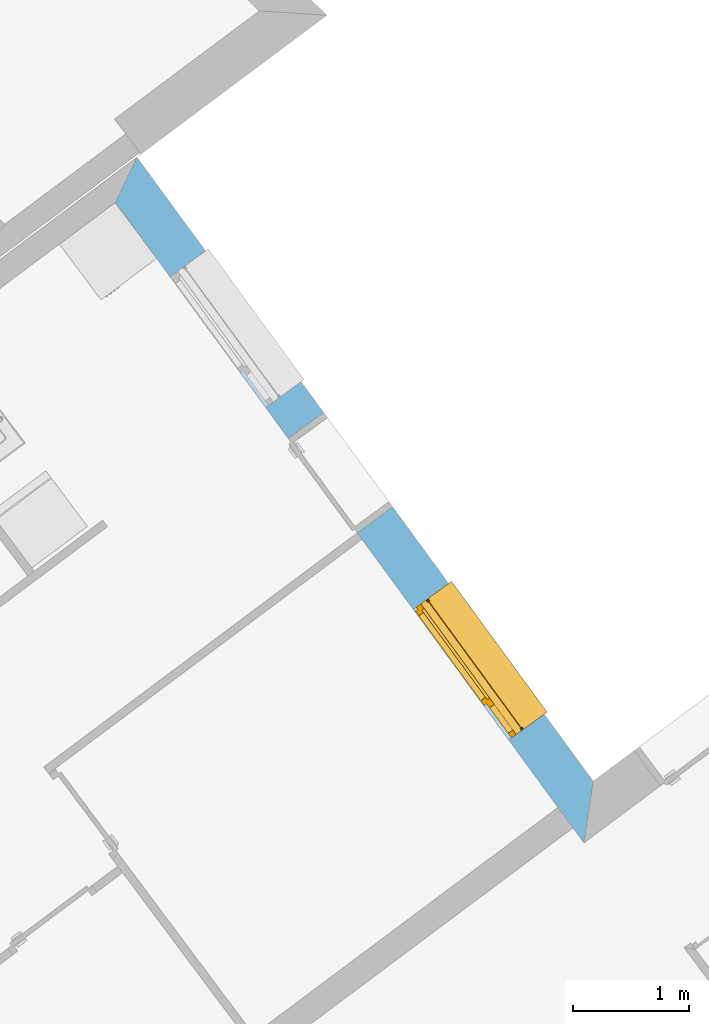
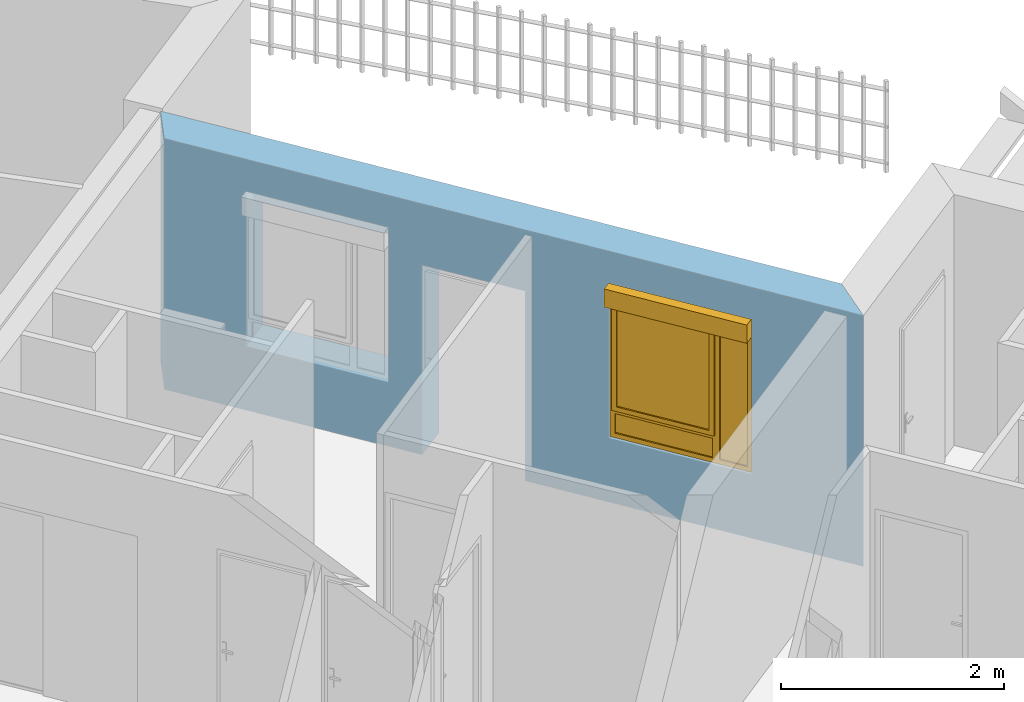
# One storey, part 12 of 195: 1 window, 3 openings, plus 1 element that does not belong to this part.
"""IFC2X3 building model written with IfcOpenShell, lengths in metres."""

from ifc_helpers import new_model, entity, si_unit, converted_unit, derived_unit, money_unit, direction, frame, origin_with_axes, origin_2d_with_axis, place, context, subcontext, project, spatial, polyline, rectangle, outline, extrude, open_shell, faceted_brep, surface_model, source, transform, mapped, material, layer, layer_set, layer_usage, type_object, element, fill, save


model = new_model("IFC2X3")

# Units and contexts
model_context = context("Model", 3, precision=1e-05, world=origin_with_axes(), true_north=direction((0.0, 1.0)))
body_context = subcontext(model_context, "Body", "Model", "MODEL_VIEW")
ifc_project = project(units=[si_unit("LENGTHUNIT", "METRE"), si_unit("AREAUNIT", "SQUARE_METRE"), si_unit("VOLUMEUNIT", "CUBIC_METRE"), converted_unit("PLANEANGLEUNIT", "DEGREE", entity("IfcPlaneAngleMeasure", 0.0174532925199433), si_unit("PLANEANGLEUNIT", "RADIAN"), dimensions=[0, 0, 0, 0, 0, 0, 0]), money_unit("CHF"), converted_unit("TIMEUNIT", "Year", entity("IfcTimeMeasure", 31557600.0), si_unit("TIMEUNIT", "SECOND"), dimensions=[0, 0, 1, 0, 0, 0, 0]), si_unit("MASSUNIT", "GRAM", prefix="KILO"), si_unit("THERMODYNAMICTEMPERATUREUNIT", "DEGREE_CELSIUS"), si_unit("LUMINOUSINTENSITYUNIT", "LUMEN"), si_unit("ENERGYUNIT", "JOULE", prefix="MEGA"), derived_unit("THERMALCONDUCTANCEUNIT", [(si_unit("POWERUNIT", "WATT"), 1), (si_unit("LENGTHUNIT", "METRE"), -1), (si_unit("THERMODYNAMICTEMPERATUREUNIT", "KELVIN"), -1)]), derived_unit("SPECIFICHEATCAPACITYUNIT", [(si_unit("ENERGYUNIT", "JOULE"), 1), (si_unit("MASSUNIT", "GRAM", prefix="KILO"), -1), (si_unit("THERMODYNAMICTEMPERATUREUNIT", "KELVIN"), -1)]), derived_unit("MASSDENSITYUNIT", [(si_unit("MASSUNIT", "GRAM", prefix="KILO"), 1), (si_unit("VOLUMEUNIT", "CUBIC_METRE"), -1)])], contexts=[model_context])

# Site, building, storey
site_placement = place(None, origin_with_axes())
site = spatial("IfcSite", under=ifc_project, at=site_placement, Name="Site", CompositionType="ELEMENT")
building_placement = place(site_placement, origin_with_axes())
building = spatial("IfcBuilding", under=site, at=building_placement, Name="Bâtiment", CompositionType="ELEMENT")
storey_placement = place(building_placement, origin_with_axes())
storey = spatial("IfcBuildingStorey", under=building, at=storey_placement, Name="rdc", CompositionType="ELEMENT", Elevation=0.0)

# Wall, openings, window
ifc_material_1 = material(Name="Parpaing 312445824")
ifc_layer_1 = layer(ifc_material_1, 0.22, ventilated="UNKNOWN")
ifc_material_2 = material(Name="Isolant styromousse 301821074")
ifc_layer_2 = layer(ifc_material_2, 0.16, ventilated="UNKNOWN")
ifc_layer_set = layer_set([ifc_layer_1, ifc_layer_2], Name="isol int 22+16 0836643197")
ifc_layer_usage = layer_usage(ifc_layer_set, "AXIS2", "POSITIVE", 0.0)
wall_type = type_object("IfcWallType", Name="isol int 22+16 0836643197 380", PredefinedType="NOTDEFINED")
wall_placement = place(storey_placement, frame((9541.451386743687, -1075.117736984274, 57.7), z_axis=(0.0, 0.0, 1.0), x_axis=(-0.5902012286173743, 0.8072561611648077, 0.0)))
wall = element("IfcWallStandardCase", 1, at=wall_placement, inside=storey, type_object=wall_type, material=ifc_layer_usage, Name="Mur-113", context=body_context, shape_type="SweptSolid", body=[
    extrude(outline(polyline([(0.0, 0.0), (6.680351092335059, 0.0), (6.476444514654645, 0.3800000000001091), (-0.3839160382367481, 0.3800000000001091), (0.0, 0.0)])), origin_with_axes(), (0.0, 0.0, 1.0), 2.75),
])
opening_1_placement = place(wall_placement, frame((4.976733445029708, 0.0, 0.7000000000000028), z_axis=(0.0, 0.0, 1.0), x_axis=(1.0, 0.0, 0.0)))
element("IfcOpeningElement", 2, at=opening_1_placement, cuts=wall, Name="Fen-045", context=body_context, shape_type="Brep", body=[
    faceted_brep([(0.7000000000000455, 0.2199999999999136, 1.5), (-0.6999999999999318, 0.2200000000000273, 1.5), (-0.7000000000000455, -3.183810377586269, 1.5), (0.6999999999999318, -3.183810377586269, 1.5), (0.7000000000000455, 0.2199999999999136, 1.700000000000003), (-0.6999999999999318, 0.2200000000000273, 1.700000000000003), (-0.6999999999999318, 0.3000000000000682, 1.5), (-0.6999999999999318, 0.3000000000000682, 0.0), (-0.7000000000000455, -3.183810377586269, 0.0), (0.6999999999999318, -3.183810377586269, 0.0), (0.7000000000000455, 0.3000000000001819, 1.5), (0.7000000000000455, 0.3000000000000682, 0.0), (0.6999999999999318, 0.4800000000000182, 1.5), (0.6999999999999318, 0.4800000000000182, 1.700000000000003), (-0.7000000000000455, 0.4799999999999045, 1.700000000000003), (-0.7000000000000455, 0.4799999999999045, 1.5), (-0.7000000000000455, 3.563810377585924, 1.5), (-0.7000000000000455, 3.563810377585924, 0.0), (0.7000000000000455, 3.563810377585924, 0.0), (0.7000000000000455, 3.563810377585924, 1.5)], [[[0, 1, 2, 3]], [[1, 0, 4, 5]], [[1, 6, 7, 8, 2]], [[2, 8, 9, 3]], [[10, 0, 3, 9, 11]], [[0, 10, 12, 13, 4]], [[14, 5, 4, 13]], [[6, 1, 5, 14, 15]], [[6, 15, 16, 17, 7]], [[11, 9, 8, 7, 17, 18]], [[12, 10, 11, 18, 19]], [[12, 15, 14, 13]], [[15, 12, 19, 16]], [[19, 18, 17, 16]]]),
])
opening_2_placement = place(wall_placement, frame((1.416247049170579, 0.0, 0.7000000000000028), z_axis=(0.0, 0.0, 1.0), x_axis=(1.0, 0.0, 0.0)))
opening_2 = element("IfcOpeningElement", 3, at=opening_2_placement, cuts=wall, Name="Fen-045", context=body_context, shape_type="Brep", body=[
    faceted_brep([(0.6999999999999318, 0.220000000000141, 1.5), (-0.7000000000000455, 0.220000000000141, 1.5), (-0.7000000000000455, -3.183810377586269, 1.5), (0.6999999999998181, -3.183810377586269, 1.5), (0.6999999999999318, 0.220000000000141, 1.700000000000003), (-0.7000000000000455, 0.220000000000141, 1.700000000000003), (-0.7000000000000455, 0.3000000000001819, 1.5), (-0.7000000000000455, 0.3000000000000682, 0.0), (-0.7000000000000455, -3.183810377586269, 0.0), (0.6999999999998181, -3.183810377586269, 0.0), (0.6999999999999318, 0.3000000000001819, 1.5), (0.7000000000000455, 0.3000000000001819, 0.0), (0.6999999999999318, 0.4800000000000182, 1.5), (0.6999999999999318, 0.4800000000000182, 1.700000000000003), (-0.7000000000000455, 0.4800000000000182, 1.700000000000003), (-0.7000000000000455, 0.4800000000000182, 1.5), (-0.7000000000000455, 3.563810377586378, 1.5), (-0.7000000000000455, 3.563810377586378, 0.0), (0.7000000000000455, 3.563810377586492, 0.0), (0.7000000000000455, 3.563810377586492, 1.5)], [[[0, 1, 2, 3]], [[1, 0, 4, 5]], [[1, 6, 7, 8, 2]], [[2, 8, 9, 3]], [[10, 0, 3, 9, 11]], [[0, 10, 12, 13, 4]], [[14, 5, 4, 13]], [[6, 1, 5, 14, 15]], [[6, 15, 16, 17, 7]], [[11, 9, 8, 7, 17, 18]], [[12, 10, 11, 18, 19]], [[12, 15, 14, 13]], [[15, 12, 19, 16]], [[19, 18, 17, 16]]]),
])
opening_3_placement = place(wall_placement, frame((3.44115834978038, 0.0, 0.0), z_axis=(0.0, 0.0, 1.0), x_axis=(1.0, 0.0, 0.0)))
element("IfcOpeningElement", 4, at=opening_3_placement, cuts=wall, Name="Por-303", context=body_context, shape_type="SweptSolid", body=[
    extrude(rectangle(XDim=1.01000001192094, YDim=2.079999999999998, at=origin_2d_with_axis()), frame((-5.960600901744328e-09, -0.3799999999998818, 1.039999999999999), z_axis=(0.0, -1.0, 0.0), x_axis=(-1.0, 0.0, 0.0)), (0.0, 0.0, -1.0), 0.76),
])
window_style = type_object("IfcWindowStyle", Name="Fenêtre variable 27", ConstructionType="NOTDEFINED", OperationType="TRIPLE_PANEL_LEFT", ParameterTakesPrecedence=False, Sizeable=False)
shared_shape = source(origin_with_axes(), body_context, "Body", "SurfaceModel", [
    surface_model("IfcShellBasedSurfaceModel", [(0.7, -0.05100000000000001, 0.05), (-0.7, -0.05100000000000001, 0.05000000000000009), (-0.7, -0.05100000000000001, 0.04000000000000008), (0.7, -0.05100000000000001, 0.04), (-0.7, -0.3799999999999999, 0.02900000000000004), (0.7, -0.3799999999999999, 0.02899999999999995), (-0.7, -0.3799999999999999, 0.00900000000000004), (0.7, -0.3799999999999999, 0.008999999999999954), (-0.7, -0.3699999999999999, 0.01900000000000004), (0.7, -0.3699999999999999, 0.01899999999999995)], [open_shell([[[0, 1, 2, 3]], [[3, 2, 4, 5]], [[5, 4, 6, 7]], [[7, 6, 8, 9]]])]),
    faceted_brep([(0.7, -0.13, 1.7), (0.7, 0.13, 1.7), (0.697, 0.13, 1.7), (0.697, -0.13, 1.7), (0.7, -0.13, 1.5), (0.7, 0.13, 1.5), (0.697, 0.13, 1.5), (0.697, -0.13, 1.5)], [[[0, 1, 2, 3]], [[0, 4, 5, 1]], [[1, 5, 6, 2]], [[3, 2, 6, 7]], [[4, 0, 3, 7]], [[5, 4, 7, 6]]]),
    faceted_brep([(-0.6970000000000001, -0.1299999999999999, 1.7), (-0.6970000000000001, 0.1300000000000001, 1.7), (-0.7000000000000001, 0.1300000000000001, 1.7), (-0.7000000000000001, -0.1299999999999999, 1.7), (-0.6970000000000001, -0.1299999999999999, 1.5), (-0.6970000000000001, 0.1300000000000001, 1.5), (-0.7000000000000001, 0.1300000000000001, 1.5), (-0.7000000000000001, -0.1299999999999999, 1.5)], [[[0, 1, 2, 3]], [[0, 4, 5, 1]], [[1, 5, 6, 2]], [[3, 2, 6, 7]], [[4, 0, 3, 7]], [[5, 4, 7, 6]]]),
    faceted_brep([(0.697, -0.13, 1.5), (0.697, -0.13, 1.7), (-0.697, -0.1299999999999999, 1.7), (-0.697, -0.1299999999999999, 1.5), (0.697, -0.127, 1.5), (0.697, -0.127, 1.697), (0.697, 0.127, 1.697), (0.697, 0.127, 1.503), (0.697, -0.108, 1.503), (0.697, -0.108, 1.5), (0.697, 0.13, 1.5), (0.697, 0.13, 1.7), (-0.697, 0.1300000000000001, 1.7), (-0.697, 0.1300000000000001, 1.5), (-0.697, -0.1079999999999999, 1.5), (-0.697, -0.1079999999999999, 1.503), (-0.697, 0.1270000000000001, 1.503), (-0.697, 0.1270000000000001, 1.697), (-0.697, -0.1269999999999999, 1.697), (-0.697, -0.1269999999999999, 1.5)], [[[0, 1, 2, 3]], [[0, 4, 5, 6, 7, 8, 9, 10, 11, 1]], [[1, 11, 12, 2]], [[3, 2, 12, 13, 14, 15, 16, 17, 18, 19]], [[4, 0, 3, 19]], [[5, 4, 19, 18]], [[6, 5, 18, 17]], [[7, 6, 17, 16]], [[8, 7, 16, 15]], [[9, 8, 15, 14]], [[10, 9, 14, 13]], [[11, 10, 13, 12]]]),
    faceted_brep([(0.694, -0.08075423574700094, 1.585760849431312), (0.694, -0.07705479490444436, 1.571954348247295), (0.694, -0.07101408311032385, 1.559), (0.694, -0.06281564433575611, 1.547291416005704), (0.694, -0.05270858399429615, 1.537184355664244), (0.694, -0.04099999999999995, 1.528985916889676), (0.694, -0.02804565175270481, 1.522945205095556), (0.694, -0.01423915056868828, 1.519245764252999), (0.694, 0.0, 1.518), (0.694, 0.01423915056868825, 1.519245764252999), (0.694, 0.02804565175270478, 1.522945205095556), (0.694, 0.04099999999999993, 1.528985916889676), (0.694, 0.05270858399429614, 1.537184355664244), (0.694, 0.06281564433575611, 1.547291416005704), (0.694, 0.07101408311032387, 1.559), (0.694, 0.07705479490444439, 1.571954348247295), (0.694, 0.08075423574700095, 1.585760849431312), (0.694, 0.0819999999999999, 1.6), (0.694, 0.08075423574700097, 1.614239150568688), (0.694, 0.0770547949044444, 1.628045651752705), (0.694, 0.07101408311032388, 1.641), (0.694, 0.06281564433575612, 1.652708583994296), (0.694, 0.05270858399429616, 1.662815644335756), (0.694, 0.04099999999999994, 1.671014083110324), (0.694, 0.02804565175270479, 1.677054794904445), (0.694, 0.01423915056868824, 1.680754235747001), (0.694, 0.0, 1.682), (0.694, -0.01423915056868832, 1.680754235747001), (0.694, -0.02804565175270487, 1.677054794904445), (0.694, -0.04100000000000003, 1.671014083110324), (0.694, -0.05270858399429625, 1.662815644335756), (0.694, -0.06281564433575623, 1.652708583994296), (0.694, -0.07101408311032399, 1.641), (0.694, -0.07705479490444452, 1.628045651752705), (0.694, -0.0807542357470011, 1.614239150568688), (0.694, -0.08200000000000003, 1.6), (-0.694, -0.08075423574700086, 1.585760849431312), (-0.694, -0.07705479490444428, 1.571954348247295), (-0.694, -0.07101408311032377, 1.559), (-0.694, -0.06281564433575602, 1.547291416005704), (-0.694, -0.05270858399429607, 1.537184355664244), (-0.694, -0.04099999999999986, 1.528985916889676), (-0.694, -0.02804565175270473, 1.522945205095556), (-0.694, -0.0142391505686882, 1.519245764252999), (-0.694, 0.0, 1.518), (-0.694, 0.01423915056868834, 1.519245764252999), (-0.694, 0.02804565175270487, 1.522945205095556), (-0.694, 0.04100000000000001, 1.528985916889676), (-0.694, 0.05270858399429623, 1.537184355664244), (-0.694, 0.06281564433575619, 1.547291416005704), (-0.694, 0.07101408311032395, 1.559), (-0.694, 0.07705479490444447, 1.571954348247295), (-0.694, 0.08075423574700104, 1.585760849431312), (-0.694, 0.08199999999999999, 1.6), (-0.694, 0.08075423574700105, 1.614239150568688), (-0.694, 0.07705479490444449, 1.628045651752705), (-0.694, 0.07101408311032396, 1.641), (-0.694, 0.0628156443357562, 1.652708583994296), (-0.694, 0.05270858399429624, 1.662815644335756), (-0.694, 0.04100000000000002, 1.671014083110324), (-0.694, 0.02804565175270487, 1.677054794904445), (-0.694, 0.01423915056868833, 1.680754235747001), (-0.694, 0.0, 1.682), (-0.694, -0.01423915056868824, 1.680754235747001), (-0.694, -0.02804565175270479, 1.677054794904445), (-0.694, -0.04099999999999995, 1.671014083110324), (-0.694, -0.05270858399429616, 1.662815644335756), (-0.694, -0.06281564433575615, 1.652708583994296), (-0.694, -0.07101408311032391, 1.641), (-0.694, -0.07705479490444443, 1.628045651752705), (-0.694, -0.08075423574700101, 1.614239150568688), (-0.694, -0.08199999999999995, 1.6)], [[[0, 1, 2, 3, 4, 5, 6, 7, 8, 9, 10, 11, 12, 13, 14, 15, 16, 17, 18, 19, 20, 21, 22, 23, 24, 25, 26, 27, 28, 29, 30, 31, 32, 33, 34, 35]], [[1, 0, 36, 37]], [[2, 1, 37, 38]], [[3, 2, 38, 39]], [[4, 3, 39, 40]], [[5, 4, 40, 41]], [[6, 5, 41, 42]], [[7, 6, 42, 43]], [[8, 7, 43, 44]], [[9, 8, 44, 45]], [[10, 9, 45, 46]], [[11, 10, 46, 47]], [[12, 11, 47, 48]], [[13, 12, 48, 49]], [[14, 13, 49, 50]], [[15, 14, 50, 51]], [[16, 15, 51, 52]], [[17, 16, 52, 53]], [[18, 17, 53, 54]], [[19, 18, 54, 55]], [[20, 19, 55, 56]], [[21, 20, 56, 57]], [[22, 21, 57, 58]], [[23, 22, 58, 59]], [[24, 23, 59, 60]], [[25, 24, 60, 61]], [[26, 25, 61, 62]], [[27, 26, 62, 63]], [[28, 27, 63, 64]], [[29, 28, 64, 65]], [[30, 29, 65, 66]], [[31, 30, 66, 67]], [[32, 31, 67, 68]], [[33, 32, 68, 69]], [[34, 33, 69, 70]], [[35, 34, 70, 71]], [[0, 35, 71, 36]], [[36, 71, 70, 69, 68, 67, 66, 65, 64, 63, 62, 61, 60, 59, 58, 57, 56, 55, 54, 53, 52, 51, 50, 49, 48, 47, 46, 45, 44, 43, 42, 41, 40, 39, 38, 37]]]),
    faceted_brep([(-0.7, -0.105, 0.03), (-0.7, -0.13, 0.03), (-0.7, -0.1299999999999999, 1.5), (-0.7, -0.1049999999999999, 1.5), (-0.6749999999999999, -0.105, 0.03), (-0.6749999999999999, -0.108, 0.03), (-0.697, -0.108, 0.03), (-0.697, -0.127, 0.03), (-0.6749999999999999, -0.127, 0.03), (-0.6749999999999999, -0.13, 0.03), (-0.6749999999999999, -0.1299999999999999, 1.5), (-0.6749999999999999, -0.1269999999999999, 1.5), (-0.697, -0.1269999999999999, 1.5), (-0.697, -0.1079999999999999, 1.5), (-0.6749999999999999, -0.1079999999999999, 1.5), (-0.6749999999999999, -0.1049999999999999, 1.5)], [[[0, 1, 2, 3]], [[0, 4, 5, 6, 7, 8, 9, 1]], [[1, 9, 10, 2]], [[3, 2, 10, 11, 12, 13, 14, 15]], [[4, 0, 3, 15]], [[5, 4, 15, 14]], [[6, 5, 14, 13]], [[7, 6, 13, 12]], [[8, 7, 12, 11]], [[9, 8, 11, 10]]]),
    faceted_brep([(0.7, -0.105, 0.03), (0.7, -0.1049999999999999, 1.5), (0.7, -0.1299999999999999, 1.5), (0.7, -0.13, 0.03), (0.6749999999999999, -0.105, 0.03), (0.6749999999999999, -0.1049999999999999, 1.5), (0.6749999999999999, -0.1079999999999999, 1.5), (0.697, -0.1079999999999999, 1.5), (0.697, -0.1269999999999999, 1.5), (0.6749999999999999, -0.1269999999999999, 1.5), (0.6749999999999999, -0.1299999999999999, 1.5), (0.6749999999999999, -0.13, 0.03), (0.6749999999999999, -0.127, 0.03), (0.697, -0.127, 0.03), (0.697, -0.108, 0.03), (0.6749999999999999, -0.108, 0.03)], [[[0, 1, 2, 3]], [[4, 5, 1, 0]], [[1, 5, 6, 7, 8, 9, 10, 2]], [[3, 2, 10, 11]], [[0, 3, 11, 12, 13, 14, 15, 4]], [[15, 6, 5, 4]], [[14, 7, 6, 15]], [[13, 8, 7, 14]], [[12, 9, 8, 13]], [[11, 10, 9, 12]]]),
    surface_model("IfcShellBasedSurfaceModel", [(0.697, -0.115, 1.6), (-0.697, -0.1149999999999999, 1.6), (-0.697, -0.12, 1.6), (0.697, -0.12, 1.6), (0.697, -0.115, 1.6), (0.697, -0.12, 1.6), (-0.697, -0.1199999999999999, 1.6), (-0.697, -0.1149999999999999, 1.6)], [open_shell([[[0, 1, 2, 3]], [[4, 5, 6, 7]]])]),
    faceted_brep([(0.697, -0.115, 1.6), (0.697, -0.1166666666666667, 1.583333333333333), (-0.697, -0.1166666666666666, 1.583333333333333), (-0.697, -0.1149999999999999, 1.6), (0.697, -0.12, 1.6), (0.697, -0.1216666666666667, 1.583333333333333), (0.697, -0.1216666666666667, 1.566666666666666), (0.697, -0.12, 1.55), (0.697, -0.115, 1.55), (0.697, -0.1166666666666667, 1.566666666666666), (-0.697, -0.1166666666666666, 1.566666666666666), (-0.697, -0.1149999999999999, 1.55), (-0.697, -0.1199999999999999, 1.55), (-0.697, -0.1216666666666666, 1.566666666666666), (-0.697, -0.1216666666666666, 1.583333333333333), (-0.697, -0.1199999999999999, 1.6)], [[[0, 1, 2, 3]], [[0, 4, 5, 6, 7, 8, 9, 1]], [[1, 9, 10, 2]], [[3, 2, 10, 11, 12, 13, 14, 15]], [[4, 0, 3, 15]], [[5, 4, 15, 14]], [[6, 5, 14, 13]], [[7, 6, 13, 12]], [[8, 7, 12, 11]], [[9, 8, 11, 10]]]),
    faceted_brep([(0.697, -0.115, 1.55), (0.697, -0.1166666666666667, 1.533333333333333), (-0.697, -0.1166666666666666, 1.533333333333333), (-0.697, -0.1149999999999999, 1.55), (0.697, -0.12, 1.55), (0.697, -0.1216666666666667, 1.533333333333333), (0.697, -0.1216666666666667, 1.516666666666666), (0.697, -0.12, 1.5), (0.697, -0.115, 1.5), (0.697, -0.1166666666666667, 1.516666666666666), (-0.697, -0.1166666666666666, 1.516666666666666), (-0.697, -0.1149999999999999, 1.5), (-0.697, -0.1199999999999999, 1.5), (-0.697, -0.1216666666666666, 1.516666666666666), (-0.697, -0.1216666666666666, 1.533333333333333), (-0.697, -0.1199999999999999, 1.55)], [[[0, 1, 2, 3]], [[0, 4, 5, 6, 7, 8, 9, 1]], [[1, 9, 10, 2]], [[3, 2, 10, 11, 12, 13, 14, 15]], [[4, 0, 3, 15]], [[5, 4, 15, 14]], [[6, 5, 14, 13]], [[7, 6, 13, 12]], [[8, 7, 12, 11]], [[9, 8, 11, 10]]]),
    faceted_brep([(0.6749999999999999, 0.0, 1.45), (0.6749999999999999, -0.02500000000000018, 1.45), (0.6499999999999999, -0.02500000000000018, 1.45), (0.6499999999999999, -0.05000000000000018, 1.45), (0.7, -0.05000000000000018, 1.45), (0.7, 0.0, 1.45), (0.6749999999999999, 0.0, 0.3099999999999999), (0.6749999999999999, -0.02500000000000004, 0.3099999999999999), (0.6499999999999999, -0.02500000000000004, 0.335), (0.6499999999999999, -0.02500000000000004, 0.3099999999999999), (0.6499999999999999, -0.05000000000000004, 0.335), (0.6499999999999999, -0.05000000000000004, 0.265), (0.6499999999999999, -0.05000000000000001, 0.05000000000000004), (0.7, -0.05000000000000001, 0.05000000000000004), (0.7, 0.0, 0.05000000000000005), (0.6499999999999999, 0.0, 0.05000000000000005), (0.6499999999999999, 0.0, 0.265), (0.6499999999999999, 0.0, 0.3099999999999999)], [[[0, 1, 2, 3, 4, 5]], [[1, 0, 6, 7]], [[8, 2, 1, 7, 9]], [[2, 8, 10, 3]], [[10, 11, 12, 13, 4, 3]], [[5, 4, 13, 14]], [[6, 0, 5, 14, 15, 16, 17]], [[6, 17, 9, 7]], [[9, 17, 16, 11, 10, 8]], [[15, 12, 11, 16]], [[14, 13, 12, 15]]]),
    faceted_brep([(-0.3068894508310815, -0.02500000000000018, 1.45), (-0.3318894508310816, -0.02500000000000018, 1.45), (-0.3318894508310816, 0.0, 1.45), (-0.3768894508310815, 0.0, 1.45), (-0.3768894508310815, -0.05000000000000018, 1.45), (-0.3068894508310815, -0.05000000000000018, 1.45), (-0.3068894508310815, -0.02500000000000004, 0.335), (-0.3068894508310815, -0.02500000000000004, 0.3099999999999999), (-0.3318894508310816, -0.02500000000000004, 0.3099999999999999), (-0.3318894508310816, 0.0, 0.3099999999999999), (-0.3068894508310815, 0.0, 0.3099999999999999), (-0.3068894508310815, 0.0, 0.265), (-0.3068894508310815, 0.0, 0.05000000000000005), (-0.3768894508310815, 0.0, 0.05000000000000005), (-0.3768894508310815, -0.05000000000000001, 0.05000000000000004), (-0.3068894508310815, -0.05000000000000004, 0.265), (-0.3068894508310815, -0.05000000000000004, 0.335), (-0.3068894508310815, -0.05000000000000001, 0.05000000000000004)], [[[0, 1, 2, 3, 4, 5]], [[1, 0, 6, 7, 8]], [[9, 2, 1, 8]], [[9, 10, 11, 12, 13, 3, 2]], [[13, 14, 4, 3]], [[15, 16, 5, 4, 14, 17]], [[6, 0, 5, 16]], [[7, 6, 16, 15, 11, 10]], [[10, 9, 8, 7]], [[11, 15, 17, 12]], [[12, 17, 14, 13]]]),
    faceted_brep([(0.6499999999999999, -0.02500000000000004, 0.335), (-0.3068894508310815, -0.02500000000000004, 0.335), (-0.3068894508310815, -0.05000000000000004, 0.335), (0.6499999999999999, -0.05000000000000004, 0.335), (-0.3068894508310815, -0.02500000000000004, 0.3099999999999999), (0.6499999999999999, -0.02500000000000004, 0.3099999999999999), (-0.3068894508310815, 0.0, 0.3099999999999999), (-0.3068894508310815, 0.0, 0.265), (-0.3068894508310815, -0.05000000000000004, 0.265), (0.6499999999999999, -0.05000000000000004, 0.265), (0.6499999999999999, 0.0, 0.265), (0.6499999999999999, 0.0, 0.3099999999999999)], [[[0, 1, 2, 3]], [[4, 1, 0, 5]], [[4, 6, 7, 8, 2, 1]], [[2, 8, 9, 3]], [[5, 0, 3, 9, 10, 11]], [[11, 6, 4, 5]], [[6, 11, 10, 7]], [[10, 9, 8, 7]]]),
    faceted_brep([(0.6749999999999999, 0.0, 1.45), (0.6749999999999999, 0.0, 1.475), (-0.3318894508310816, 0.0, 1.475), (-0.3318894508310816, 0.0, 1.45), (-0.3768894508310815, 0.0, 1.45), (-0.6499999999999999, 0.0, 1.45), (-0.7, 0.0, 1.45), (-0.7, 0.0, 1.5), (0.7, 0.0, 1.5), (0.7, 0.0, 1.45), (0.6749999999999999, -0.02500000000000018, 1.45), (0.6749999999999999, -0.02500000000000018, 1.475), (-0.3318894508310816, -0.02500000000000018, 1.475), (-0.3318894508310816, -0.02500000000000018, 1.45), (-0.3068894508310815, -0.02500000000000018, 1.45), (-0.3068894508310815, -0.05000000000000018, 1.45), (-0.3768894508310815, -0.05000000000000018, 1.45), (-0.6499999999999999, -0.05000000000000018, 1.45), (-0.7, -0.05000000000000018, 1.45), (-0.7, -0.05000000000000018, 1.5), (0.7, -0.05000000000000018, 1.5), (0.7, -0.05000000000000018, 1.45), (0.6499999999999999, -0.05000000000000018, 1.45), (0.6499999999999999, -0.02500000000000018, 1.45)], [[[0, 1, 2, 3, 4, 5, 6, 7, 8, 9]], [[1, 0, 10, 11]], [[2, 1, 11, 12]], [[3, 2, 12, 13]], [[13, 14, 15, 16, 4, 3]], [[4, 16, 17, 5]], [[5, 17, 18, 6]], [[6, 18, 19, 7]], [[7, 19, 20, 8]], [[8, 20, 21, 9]], [[10, 0, 9, 21, 22, 23]], [[14, 13, 12, 11, 10, 23]], [[14, 23, 22, 15]], [[16, 15, 22, 21, 20, 19, 18, 17]]]),
    faceted_brep([(-0.6499999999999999, -0.05000000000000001, 0.05), (-0.7, -0.05000000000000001, 0.05), (-0.7, 0.0, 0.05000000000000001), (-0.6499999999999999, 0.0, 0.05000000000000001), (-0.6499999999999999, -0.05000000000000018, 1.45), (-0.7, -0.05000000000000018, 1.45), (-0.7, 0.0, 1.45), (-0.6499999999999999, 0.0, 1.45)], [[[0, 1, 2, 3]], [[0, 4, 5, 1]], [[1, 5, 6, 2]], [[3, 2, 6, 7]], [[4, 0, 3, 7]], [[5, 4, 7, 6]]]),
    faceted_brep([(0.6499999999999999, -0.05000000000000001, 0.05), (0.7, -0.05000000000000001, 0.05), (0.7, 0.0, 0.05000000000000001), (0.6499999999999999, 0.0, 0.05000000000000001), (-0.3068894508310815, -0.05000000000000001, 0.05), (-0.3768894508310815, -0.05000000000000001, 0.05), (-0.6499999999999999, -0.05000000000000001, 0.05), (-0.7, -0.05000000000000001, 0.05), (-0.7, -0.05, 0.0), (0.7, -0.05, 0.0), (0.7, 0.0, 0.0), (-0.7, 0.0, 0.0), (-0.7, 0.0, 0.05000000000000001), (-0.6499999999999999, 0.0, 0.05000000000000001), (-0.3768894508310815, 0.0, 0.05000000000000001), (-0.3068894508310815, 0.0, 0.05000000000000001)], [[[0, 1, 2, 3]], [[0, 4, 5, 6, 7, 8, 9, 1]], [[1, 9, 10, 2]], [[3, 2, 10, 11, 12, 13, 14, 15]], [[4, 0, 3, 15]], [[5, 4, 15, 14]], [[6, 5, 14, 13]], [[7, 6, 13, 12]], [[8, 7, 12, 11]], [[9, 8, 11, 10]]]),
    faceted_brep([(0.625, -0.02500000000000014, 1.425), (0.6749999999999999, -0.02500000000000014, 1.425), (0.6749999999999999, 0.02499999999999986, 1.425), (0.625, 0.02499999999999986, 1.425), (0.625, -0.02500000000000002, 0.3599999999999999), (0.6749999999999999, -0.02500000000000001, 0.3599999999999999), (0.6749999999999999, 0.02499999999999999, 0.3599999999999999), (0.625, 0.02499999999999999, 0.3599999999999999)], [[[0, 1, 2, 3]], [[0, 4, 5, 1]], [[1, 5, 6, 2]], [[3, 2, 6, 7]], [[4, 0, 3, 7]], [[5, 4, 7, 6]]]),
    faceted_brep([(-0.2818894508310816, -0.02500000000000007, 0.3599999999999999), (-0.3318894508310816, -0.02500000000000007, 0.3599999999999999), (-0.3318894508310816, 0.02499999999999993, 0.3599999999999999), (-0.2818894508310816, 0.02499999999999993, 0.3599999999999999), (-0.2818894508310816, -0.0250000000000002, 1.425), (-0.3318894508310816, -0.0250000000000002, 1.425), (-0.3318894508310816, 0.0249999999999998, 1.425), (-0.2818894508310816, 0.0249999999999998, 1.425)], [[[0, 1, 2, 3]], [[0, 4, 5, 1]], [[1, 5, 6, 2]], [[3, 2, 6, 7]], [[4, 0, 3, 7]], [[5, 4, 7, 6]]]),
    faceted_brep([(-0.3318894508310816, -0.02500000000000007, 0.3099999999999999), (-0.3318894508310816, -0.02500000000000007, 0.3599999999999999), (-0.3318894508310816, 0.02499999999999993, 0.3599999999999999), (-0.3318894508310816, 0.02499999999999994, 0.3099999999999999), (0.6749999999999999, -0.025, 0.3099999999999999), (0.6749999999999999, -0.02500000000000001, 0.3599999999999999), (0.625, -0.02500000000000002, 0.3599999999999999), (-0.2818894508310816, -0.02500000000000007, 0.3599999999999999), (-0.2818894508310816, 0.02499999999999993, 0.3599999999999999), (0.625, 0.02499999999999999, 0.3599999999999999), (0.6749999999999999, 0.02499999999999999, 0.3599999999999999), (0.6749999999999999, 0.02499999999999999, 0.3099999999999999)], [[[0, 1, 2, 3]], [[0, 4, 5, 6, 7, 1]], [[1, 7, 8, 2]], [[3, 2, 8, 9, 10, 11]], [[4, 0, 3, 11]], [[5, 4, 11, 10]], [[6, 5, 10, 9]], [[7, 6, 9, 8]]]),
    faceted_brep([(0.6749999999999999, -0.02500000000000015, 1.475), (0.6749999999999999, -0.02500000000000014, 1.425), (0.6749999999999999, 0.02499999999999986, 1.425), (0.6749999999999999, 0.02499999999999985, 1.475), (-0.3318894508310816, -0.02500000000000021, 1.475), (-0.3318894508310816, -0.0250000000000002, 1.425), (-0.2818894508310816, -0.0250000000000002, 1.425), (0.625, -0.02500000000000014, 1.425), (0.625, 0.02499999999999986, 1.425), (-0.2818894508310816, 0.0249999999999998, 1.425), (-0.3318894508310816, 0.0249999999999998, 1.425), (-0.3318894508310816, 0.02499999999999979, 1.475)], [[[0, 1, 2, 3]], [[0, 4, 5, 6, 7, 1]], [[1, 7, 8, 2]], [[3, 2, 8, 9, 10, 11]], [[4, 0, 3, 11]], [[5, 4, 11, 10]], [[6, 5, 10, 9]], [[7, 6, 9, 8]]]),
    surface_model("IfcShellBasedSurfaceModel", [(0.625, -0.01000000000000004, 0.3599999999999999), (0.625, -0.01000000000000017, 1.425), (-0.2818894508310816, -0.01000000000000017, 1.425), (-0.2818894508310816, -0.01000000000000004, 0.3599999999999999)], [open_shell([[[0, 1, 2, 3]]])]),
    surface_model("IfcShellBasedSurfaceModel", [(0.625, 0.009999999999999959, 0.3599999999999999), (-0.2818894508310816, 0.009999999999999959, 0.3599999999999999), (-0.2818894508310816, 0.00999999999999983, 1.425), (0.625, 0.00999999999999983, 1.425)], [open_shell([[[0, 1, 2, 3]]])]),
    surface_model("IfcShellBasedSurfaceModel", [(-0.3768894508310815, -0.035, 0.05), (-0.3768894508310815, -0.03500000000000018, 1.45), (-0.65, -0.03500000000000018, 1.45), (-0.65, -0.035, 0.05)], [open_shell([[[0, 1, 2, 3]]])]),
    surface_model("IfcShellBasedSurfaceModel", [(-0.3768894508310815, -0.015, 0.05), (-0.65, -0.015, 0.05), (-0.65, -0.01500000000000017, 1.45), (-0.3768894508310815, -0.01500000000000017, 1.45)], [open_shell([[[0, 1, 2, 3]]])]),
    surface_model("IfcShellBasedSurfaceModel", [(0.6499999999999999, -0.035, 0.05), (0.6499999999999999, -0.03500000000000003, 0.265), (-0.3068894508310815, -0.03500000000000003, 0.265), (-0.3068894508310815, -0.035, 0.05)], [open_shell([[[0, 1, 2, 3]]])]),
    surface_model("IfcShellBasedSurfaceModel", [(0.6499999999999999, -0.015, 0.05), (-0.3068894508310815, -0.015, 0.05), (-0.3068894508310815, -0.01500000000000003, 0.265), (0.6499999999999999, -0.01500000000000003, 0.265)], [open_shell([[[0, 1, 2, 3]]])]),
])
window_placement = place(opening_2_placement, frame((-0.6999999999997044, 0.0, 0.0), z_axis=(0.0, 0.0, 1.0), x_axis=(1.0, 0.0, 0.0)))
window = element("IfcWindow", 5, at=window_placement, inside=storey, type_object=window_style, Name="Fen-045", OverallHeight=1.5, OverallWidth=1.4, context=body_context, shape_type="MappedRepresentation", body=[
    mapped(shared_shape, transform((0.7000000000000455, 0.3500000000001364, 0.0))),
])
fill(opening_2, window)

save(model, "model.ifc")
